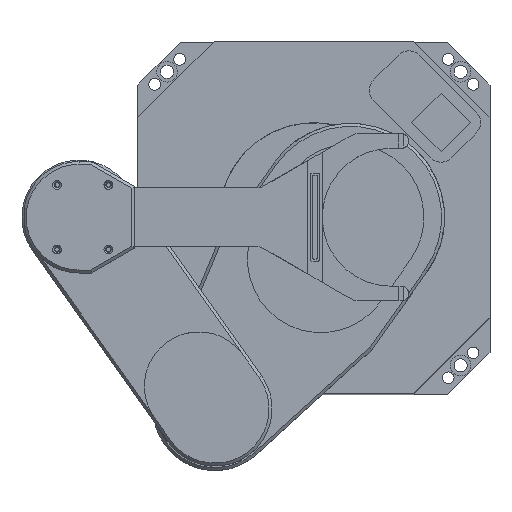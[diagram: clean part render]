
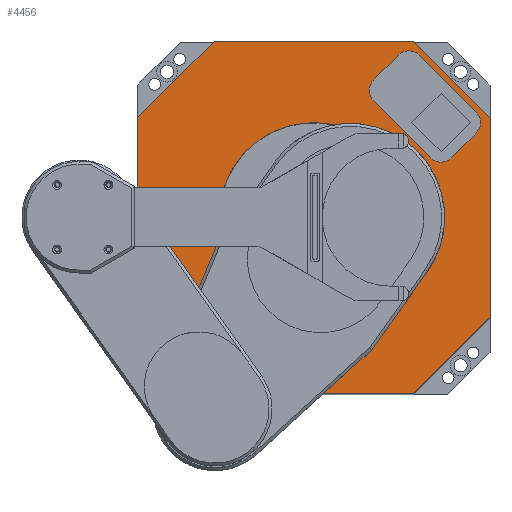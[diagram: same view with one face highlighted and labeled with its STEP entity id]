
A CAD part, top view. The second image highlights one B-rep face of the part: STEP entity #4456.
In plain terms, the highlighted planar face has unit normal (0, 0, 1).
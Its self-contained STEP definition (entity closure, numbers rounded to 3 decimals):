
#175=LINE('',#6942,#598);
#179=LINE('',#6954,#602);
#183=LINE('',#6966,#606);
#187=LINE('',#6976,#610);
#204=LINE('',#7014,#627);
#207=LINE('',#7019,#630);
#209=LINE('',#7023,#632);
#211=LINE('',#7027,#634);
#213=LINE('',#7031,#636);
#215=LINE('',#7035,#638);
#217=LINE('',#7039,#640);
#219=LINE('',#7042,#642);
#598=VECTOR('',#5590,10.);
#602=VECTOR('',#5602,10.);
#606=VECTOR('',#5614,10.);
#610=VECTOR('',#5626,10.);
#627=VECTOR('',#5649,10.);
#630=VECTOR('',#5654,10.);
#632=VECTOR('',#5658,10.);
#634=VECTOR('',#5662,10.);
#636=VECTOR('',#5666,10.);
#638=VECTOR('',#5670,10.);
#640=VECTOR('',#5674,10.);
#642=VECTOR('',#5678,10.);
#980=PLANE('',#4926);
#1132=FACE_BOUND('',#1594,.T.);
#1133=FACE_BOUND('',#1595,.T.);
#1297=FACE_OUTER_BOUND('',#1593,.T.);
#1593=EDGE_LOOP('',(#3416,#3417,#3418,#3419,#3420,#3421,#3422,#3423));
#1594=EDGE_LOOP('',(#3424));
#1595=EDGE_LOOP('',(#3425,#3426,#3427,#3428,#3429,#3430,#3431,#3432));
#1861=CIRCLE('',#4785,64.5);
#1913=CIRCLE('',#4902,10.);
#1915=CIRCLE('',#4906,10.);
#1917=CIRCLE('',#4910,10.);
#1919=CIRCLE('',#4914,10.);
#2043=VERTEX_POINT('',#6616);
#2152=VERTEX_POINT('',#6933);
#2153=VERTEX_POINT('',#6935);
#2155=VERTEX_POINT('',#6941);
#2157=VERTEX_POINT('',#6947);
#2159=VERTEX_POINT('',#6953);
#2161=VERTEX_POINT('',#6959);
#2163=VERTEX_POINT('',#6965);
#2165=VERTEX_POINT('',#6971);
#2182=VERTEX_POINT('',#7012);
#2183=VERTEX_POINT('',#7013);
#2184=VERTEX_POINT('',#7018);
#2185=VERTEX_POINT('',#7022);
#2186=VERTEX_POINT('',#7026);
#2187=VERTEX_POINT('',#7030);
#2188=VERTEX_POINT('',#7034);
#2189=VERTEX_POINT('',#7038);
#2466=EDGE_CURVE('',#2043,#2043,#1861,.T.);
#2610=EDGE_CURVE('',#2153,#2152,#1913,.T.);
#2613=EDGE_CURVE('',#2155,#2153,#175,.T.);
#2616=EDGE_CURVE('',#2157,#2155,#1915,.T.);
#2619=EDGE_CURVE('',#2159,#2157,#179,.T.);
#2622=EDGE_CURVE('',#2161,#2159,#1917,.T.);
#2625=EDGE_CURVE('',#2163,#2161,#183,.T.);
#2628=EDGE_CURVE('',#2165,#2163,#1919,.T.);
#2631=EDGE_CURVE('',#2152,#2165,#187,.T.);
#2648=EDGE_CURVE('',#2182,#2183,#204,.T.);
#2651=EDGE_CURVE('',#2183,#2184,#207,.T.);
#2653=EDGE_CURVE('',#2184,#2185,#209,.T.);
#2655=EDGE_CURVE('',#2185,#2186,#211,.T.);
#2657=EDGE_CURVE('',#2186,#2187,#213,.T.);
#2659=EDGE_CURVE('',#2187,#2188,#215,.T.);
#2661=EDGE_CURVE('',#2188,#2189,#217,.T.);
#2663=EDGE_CURVE('',#2189,#2182,#219,.T.);
#3416=ORIENTED_EDGE('',*,*,#2648,.F.);
#3417=ORIENTED_EDGE('',*,*,#2663,.F.);
#3418=ORIENTED_EDGE('',*,*,#2661,.F.);
#3419=ORIENTED_EDGE('',*,*,#2659,.F.);
#3420=ORIENTED_EDGE('',*,*,#2657,.F.);
#3421=ORIENTED_EDGE('',*,*,#2655,.F.);
#3422=ORIENTED_EDGE('',*,*,#2653,.F.);
#3423=ORIENTED_EDGE('',*,*,#2651,.F.);
#3424=ORIENTED_EDGE('',*,*,#2466,.T.);
#3425=ORIENTED_EDGE('',*,*,#2610,.T.);
#3426=ORIENTED_EDGE('',*,*,#2631,.T.);
#3427=ORIENTED_EDGE('',*,*,#2628,.T.);
#3428=ORIENTED_EDGE('',*,*,#2625,.T.);
#3429=ORIENTED_EDGE('',*,*,#2622,.T.);
#3430=ORIENTED_EDGE('',*,*,#2619,.T.);
#3431=ORIENTED_EDGE('',*,*,#2616,.T.);
#3432=ORIENTED_EDGE('',*,*,#2613,.T.);
#4456=ADVANCED_FACE('',(#1297,#1132,#1133),#980,.T.);
#4785=AXIS2_PLACEMENT_3D('',#6617,#5258,#5259);
#4902=AXIS2_PLACEMENT_3D('',#6936,#5584,#5585);
#4906=AXIS2_PLACEMENT_3D('',#6948,#5596,#5597);
#4910=AXIS2_PLACEMENT_3D('',#6960,#5608,#5609);
#4914=AXIS2_PLACEMENT_3D('',#6972,#5620,#5621);
#4926=AXIS2_PLACEMENT_3D('',#7043,#5679,#5680);
#5258=DIRECTION('center_axis',(0.,0.,-1.));
#5259=DIRECTION('ref_axis',(-1.,0.,0.));
#5584=DIRECTION('center_axis',(0.,0.,-1.));
#5585=DIRECTION('ref_axis',(0.707,-0.707,0.));
#5590=DIRECTION('',(-0.707,0.707,0.));
#5596=DIRECTION('center_axis',(0.,0.,-1.));
#5597=DIRECTION('ref_axis',(0.707,0.707,0.));
#5602=DIRECTION('',(-0.707,-0.707,0.));
#5608=DIRECTION('center_axis',(0.,0.,-1.));
#5609=DIRECTION('ref_axis',(-0.707,0.707,0.));
#5614=DIRECTION('',(0.707,-0.707,0.));
#5620=DIRECTION('center_axis',(0.,0.,-1.));
#5621=DIRECTION('ref_axis',(-0.707,-0.707,0.));
#5626=DIRECTION('',(0.707,0.707,0.));
#5649=DIRECTION('',(1.,0.,0.));
#5654=DIRECTION('',(0.707,-0.707,0.));
#5658=DIRECTION('',(0.,-1.,0.));
#5662=DIRECTION('',(-0.707,-0.707,0.));
#5666=DIRECTION('',(-1.,0.,0.));
#5670=DIRECTION('',(-0.707,0.707,0.));
#5674=DIRECTION('',(0.,1.,0.));
#5678=DIRECTION('',(0.707,0.707,0.));
#5679=DIRECTION('center_axis',(0.,0.,1.));
#5680=DIRECTION('ref_axis',(1.,0.,0.));
#6616=CARTESIAN_POINT('',(64.5,0.,430.));
#6617=CARTESIAN_POINT('Origin',(0.,0.,430.));
#6933=CARTESIAN_POINT('',(40.659,93.692,430.));
#6935=CARTESIAN_POINT('',(40.659,79.55,430.));
#6936=CARTESIAN_POINT('Origin',(47.73,86.621,430.));
#6941=CARTESIAN_POINT('',(79.55,40.659,430.));
#6942=CARTESIAN_POINT('',(50.381,69.827,430.));
#6947=CARTESIAN_POINT('',(93.692,40.659,430.));
#6948=CARTESIAN_POINT('Origin',(86.621,47.73,430.));
#6953=CARTESIAN_POINT('',(110.662,57.629,430.));
#6954=CARTESIAN_POINT('',(60.104,7.071,430.));
#6959=CARTESIAN_POINT('',(110.662,71.771,430.));
#6960=CARTESIAN_POINT('Origin',(103.591,64.7,430.));
#6965=CARTESIAN_POINT('',(71.771,110.662,430.));
#6966=CARTESIAN_POINT('',(100.939,81.494,430.));
#6971=CARTESIAN_POINT('',(57.629,110.662,430.));
#6972=CARTESIAN_POINT('Origin',(64.7,103.591,430.));
#6976=CARTESIAN_POINT('',(15.556,68.589,430.));
#7012=CARTESIAN_POINT('',(-68.,120.,430.));
#7013=CARTESIAN_POINT('',(68.,120.,430.));
#7014=CARTESIAN_POINT('',(68.,120.,430.));
#7018=CARTESIAN_POINT('',(120.,68.,430.));
#7019=CARTESIAN_POINT('',(120.,68.,430.));
#7022=CARTESIAN_POINT('',(120.,-68.,430.));
#7023=CARTESIAN_POINT('',(120.,-68.,430.));
#7026=CARTESIAN_POINT('',(68.,-120.,430.));
#7027=CARTESIAN_POINT('',(68.,-120.,430.));
#7030=CARTESIAN_POINT('',(-68.,-120.,430.));
#7031=CARTESIAN_POINT('',(-68.,-120.,430.));
#7034=CARTESIAN_POINT('',(-120.,-68.,430.));
#7035=CARTESIAN_POINT('',(-120.,-68.,430.));
#7038=CARTESIAN_POINT('',(-120.,68.,430.));
#7039=CARTESIAN_POINT('',(-120.,68.,430.));
#7042=CARTESIAN_POINT('',(-68.,120.,430.));
#7043=CARTESIAN_POINT('Origin',(0.,0.,
430.));
